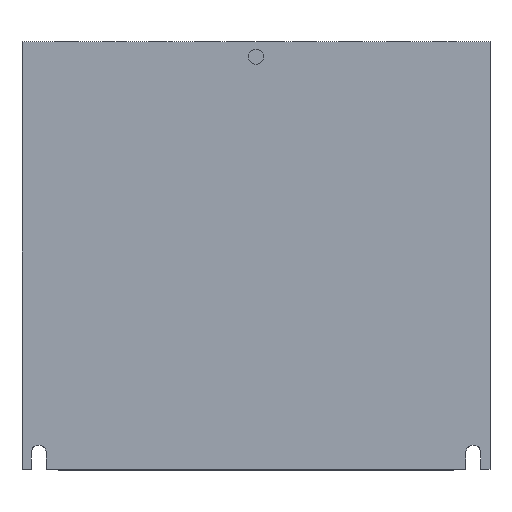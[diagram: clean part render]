
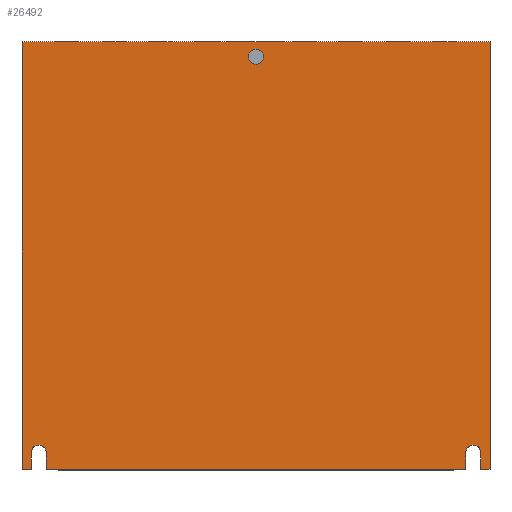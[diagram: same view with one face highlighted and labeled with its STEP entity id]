
A CAD part, top view. The second image highlights one B-rep face of the part: STEP entity #26492.
In plain terms, the highlighted planar face has unit normal (0, 0, 1).
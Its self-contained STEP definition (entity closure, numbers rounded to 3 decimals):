
#138 = EDGE_LOOP ( 'NONE', ( #8217, #8218 ) ) ;
#249 = VERTEX_POINT ( 'NONE', #27758 ) ;
#250 = VERTEX_POINT ( 'NONE', #27756 ) ;
#884 = DIRECTION ( 'NONE',  ( 1., 0., 0. ) ) ;
#916 = CARTESIAN_POINT ( 'NONE',  ( 0., 0., 0. ) ) ;
#1170 = CARTESIAN_POINT ( 'NONE',  ( 0., 128., 0. ) ) ;
#1257 = DIRECTION ( 'NONE',  ( -1., 0., 0. ) ) ;
#2004 = VERTEX_POINT ( 'NONE', #27747 ) ;
#2005 = VERTEX_POINT ( 'NONE', #27741 ) ;
#2063 = VERTEX_POINT ( 'NONE', #2794 ) ;
#2066 = VERTEX_POINT ( 'NONE', #2836 ) ;
#2336 = EDGE_CURVE ( 'NONE', #2004, #2005, #19222, .T. ) ;
#2413 = EDGE_CURVE ( 'NONE', #2063, #2066, #19344, .T. ) ;
#2794 = CARTESIAN_POINT ( 'NONE',  ( 7.25, 0., 0. ) ) ;
#2836 = CARTESIAN_POINT ( 'NONE',  ( 132.75, 0., 0. ) ) ;
#3674 = EDGE_CURVE ( 'NONE', #12986, #12984, #25699, .T. ) ;
#4168 = EDGE_CURVE ( 'NONE', #250, #249, #27934, .T. ) ;
#4291 = AXIS2_PLACEMENT_3D ( 'NONE', #8808, #9511, #9181 ) ;
#4295 = AXIS2_PLACEMENT_3D ( 'NONE', #9271, #9222, #9154 ) ;
#4296 = AXIS2_PLACEMENT_3D ( 'NONE', #8813, #9527, #8820 ) ;
#5319 = AXIS2_PLACEMENT_3D ( 'NONE', #15084, #15085, #15086 ) ;
#5643 = VERTEX_POINT ( 'NONE', #29189 ) ;
#5658 = VERTEX_POINT ( 'NONE', #29061 ) ;
#5661 = VERTEX_POINT ( 'NONE', #29546 ) ;
#5662 = VERTEX_POINT ( 'NONE', #29548 ) ;
#5664 = VERTEX_POINT ( 'NONE', #29576 ) ;
#5665 = VERTEX_POINT ( 'NONE', #29578 ) ;
#6938 = DIRECTION ( 'NONE',  ( 1., 0., 0. ) ) ;
#7065 = CARTESIAN_POINT ( 'NONE',  ( 0., 0., 0. ) ) ;
#8217 = ORIENTED_EDGE ( 'NONE', *, *, #10885, .F. ) ;
#8218 = ORIENTED_EDGE ( 'NONE', *, *, #2336, .F. ) ;
#8219 = ORIENTED_EDGE ( 'NONE', *, *, #2413, .T. ) ;
#8220 = ORIENTED_EDGE ( 'NONE', *, *, #10891, .F. ) ;
#8221 = ORIENTED_EDGE ( 'NONE', *, *, #10893, .F. ) ;
#8222 = ORIENTED_EDGE ( 'NONE', *, *, #10894, .F. ) ;
#8223 = ORIENTED_EDGE ( 'NONE', *, *, #10895, .T. ) ;
#8224 = ORIENTED_EDGE ( 'NONE', *, *, #10892, .T. ) ;
#8225 = ORIENTED_EDGE ( 'NONE', *, *, #4168, .T. ) ;
#8226 = ORIENTED_EDGE ( 'NONE', *, *, #10888, .T. ) ;
#8227 = ORIENTED_EDGE ( 'NONE', *, *, #3674, .T. ) ;
#8228 = ORIENTED_EDGE ( 'NONE', *, *, #10896, .F. ) ;
#8229 = ORIENTED_EDGE ( 'NONE', *, *, #10900, .F. ) ;
#8230 = ORIENTED_EDGE ( 'NONE', *, *, #10901, .F. ) ;
#8808 = CARTESIAN_POINT ( 'NONE',  ( 70., 123.5, 0. ) ) ;
#8813 = CARTESIAN_POINT ( 'NONE',  ( 5., 5., 0. ) ) ;
#8820 = DIRECTION ( 'NONE',  ( 1., 0., 0. ) ) ;
#8824 = CARTESIAN_POINT ( 'NONE',  ( 7.25, 5., 0. ) ) ;
#9145 = CARTESIAN_POINT ( 'NONE',  ( 0., 0., 0. ) ) ;
#9154 = DIRECTION ( 'NONE',  ( -1., 0., 0. ) ) ;
#9157 = CARTESIAN_POINT ( 'NONE',  ( 137.25, 5., 0. ) ) ;
#9163 = DIRECTION ( 'NONE',  ( 0., -1., 0. ) ) ;
#9165 = CARTESIAN_POINT ( 'NONE',  ( 2.75, 5., 0. ) ) ;
#9181 = DIRECTION ( 'NONE',  ( 1., 0., 0. ) ) ;
#9208 = DIRECTION ( 'NONE',  ( 0., -1., 0. ) ) ;
#9218 = DIRECTION ( 'NONE',  ( 0., 1., 0. ) ) ;
#9222 = DIRECTION ( 'NONE',  ( 0., 0., 1. ) ) ;
#9225 = CARTESIAN_POINT ( 'NONE',  ( 132.75, 5., 0. ) ) ;
#9243 = CARTESIAN_POINT ( 'NONE',  ( 140., 0., 0. ) ) ;
#9271 = CARTESIAN_POINT ( 'NONE',  ( 135., 5., 0. ) ) ;
#9329 = DIRECTION ( 'NONE',  ( 0., -1., 0. ) ) ;
#9479 = DIRECTION ( 'NONE',  ( 0., 1., 0. ) ) ;
#9511 = DIRECTION ( 'NONE',  ( 0., 0., 1. ) ) ;
#9523 = DIRECTION ( 'NONE',  ( 0., 1., 0. ) ) ;
#9525 = DIRECTION ( 'NONE',  ( 1., 0., 0. ) ) ;
#9526 = CARTESIAN_POINT ( 'NONE',  ( 0., 0., 0. ) ) ;
#9527 = DIRECTION ( 'NONE',  ( 0., 0., 1. ) ) ;
#10885 = EDGE_CURVE ( 'NONE', #2005, #2004, #11730, .T. ) ;
#10888 = EDGE_CURVE ( 'NONE', #249, #12986, #11732, .T. ) ;
#10891 = EDGE_CURVE ( 'NONE', #5643, #2066, #11736, .T. ) ;
#10892 = EDGE_CURVE ( 'NONE', #5664, #250, #11742, .T. ) ;
#10893 = EDGE_CURVE ( 'NONE', #5658, #5643, #11746, .T. ) ;
#10894 = EDGE_CURVE ( 'NONE', #5661, #5658, #11744, .T. ) ;
#10895 = EDGE_CURVE ( 'NONE', #5661, #5664, #11748, .T. ) ;
#10896 = EDGE_CURVE ( 'NONE', #5665, #12984, #11751, .T. ) ;
#10900 = EDGE_CURVE ( 'NONE', #5662, #5665, #11753, .T. ) ;
#10901 = EDGE_CURVE ( 'NONE', #2063, #5662, #11759, .T. ) ;
#11370 = AXIS2_PLACEMENT_3D ( 'NONE', #25280, #25269, #25384 ) ;
#11730 = CIRCLE ( 'NONE', #4291, 2.25 ) ;
#11732 = LINE ( 'NONE', #9526, #11739 ) ;
#11736 = LINE ( 'NONE', #9225, #11745 ) ;
#11739 = VECTOR ( 'NONE', #9208, 1000. ) ;
#11742 = LINE ( 'NONE', #9243, #11747 ) ;
#11744 = LINE ( 'NONE', #9157, #11750 ) ;
#11745 = VECTOR ( 'NONE', #9329, 1000. ) ;
#11746 = CIRCLE ( 'NONE', #4295, 2.25 ) ;
#11747 = VECTOR ( 'NONE', #9479, 1000. ) ;
#11748 = LINE ( 'NONE', #9145, #11752 ) ;
#11750 = VECTOR ( 'NONE', #9218, 1000. ) ;
#11751 = LINE ( 'NONE', #9165, #11754 ) ;
#11752 = VECTOR ( 'NONE', #9525, 1000. ) ;
#11753 = CIRCLE ( 'NONE', #4296, 2.25 ) ;
#11754 = VECTOR ( 'NONE', #9163, 1000. ) ;
#11759 = LINE ( 'NONE', #8824, #11763 ) ;
#11763 = VECTOR ( 'NONE', #9523, 1000. ) ;
#12984 = VERTEX_POINT ( 'NONE', #24083 ) ;
#12986 = VERTEX_POINT ( 'NONE', #24191 ) ;
#15079 = PLANE ( 'NONE',  #5319 ) ;
#15084 = CARTESIAN_POINT ( 'NONE',  ( 0., 0., 0. ) ) ;
#15085 = DIRECTION ( 'NONE',  ( 0., 0., -1. ) ) ;
#15086 = DIRECTION ( 'NONE',  ( -1., 0., 0. ) ) ;
#17588 = FACE_BOUND ( 'NONE', #138, .T. ) ;
#17592 = FACE_OUTER_BOUND ( 'NONE', #19773, .T. ) ;
#19222 = CIRCLE ( 'NONE', #11370, 2.25 ) ;
#19344 = LINE ( 'NONE', #7065, #19346 ) ;
#19346 = VECTOR ( 'NONE', #6938, 1000. ) ;
#19773 = EDGE_LOOP ( 'NONE', ( #8219, #8220, #8221, #8222, #8223, #8224, #8225, #8226, #8227, #8228, #8229, #8230 ) ) ;
#24083 = CARTESIAN_POINT ( 'NONE',  ( 2.75, 0., 0. ) ) ;
#24191 = CARTESIAN_POINT ( 'NONE',  ( 0., 0., 0. ) ) ;
#25269 = DIRECTION ( 'NONE',  ( 0., 0., 1. ) ) ;
#25280 = CARTESIAN_POINT ( 'NONE',  ( 70., 123.5, 0. ) ) ;
#25384 = DIRECTION ( 'NONE',  ( 1., 0., 0. ) ) ;
#25699 = LINE ( 'NONE', #916, #25702 ) ;
#25702 = VECTOR ( 'NONE', #884, 1000. ) ;
#26492 = ADVANCED_FACE ( 'NONE', ( #17588, #17592 ), #15079, .F. ) ;
#27741 = CARTESIAN_POINT ( 'NONE',  ( 72.25, 123.5, 0. ) ) ;
#27747 = CARTESIAN_POINT ( 'NONE',  ( 67.75, 123.5, 0. ) ) ;
#27756 = CARTESIAN_POINT ( 'NONE',  ( 140., 128., 0. ) ) ;
#27758 = CARTESIAN_POINT ( 'NONE',  ( 0., 128., 0. ) ) ;
#27934 = LINE ( 'NONE', #1170, #27938 ) ;
#27938 = VECTOR ( 'NONE', #1257, 1000. ) ;
#29061 = CARTESIAN_POINT ( 'NONE',  ( 137.25, 5., 0. ) ) ;
#29189 = CARTESIAN_POINT ( 'NONE',  ( 132.75, 5., 0. ) ) ;
#29546 = CARTESIAN_POINT ( 'NONE',  ( 137.25, 0., 0. ) ) ;
#29548 = CARTESIAN_POINT ( 'NONE',  ( 7.25, 5., 0. ) ) ;
#29576 = CARTESIAN_POINT ( 'NONE',  ( 140., 0., 0. ) ) ;
#29578 = CARTESIAN_POINT ( 'NONE',  ( 2.75, 5., 0. ) ) ;
